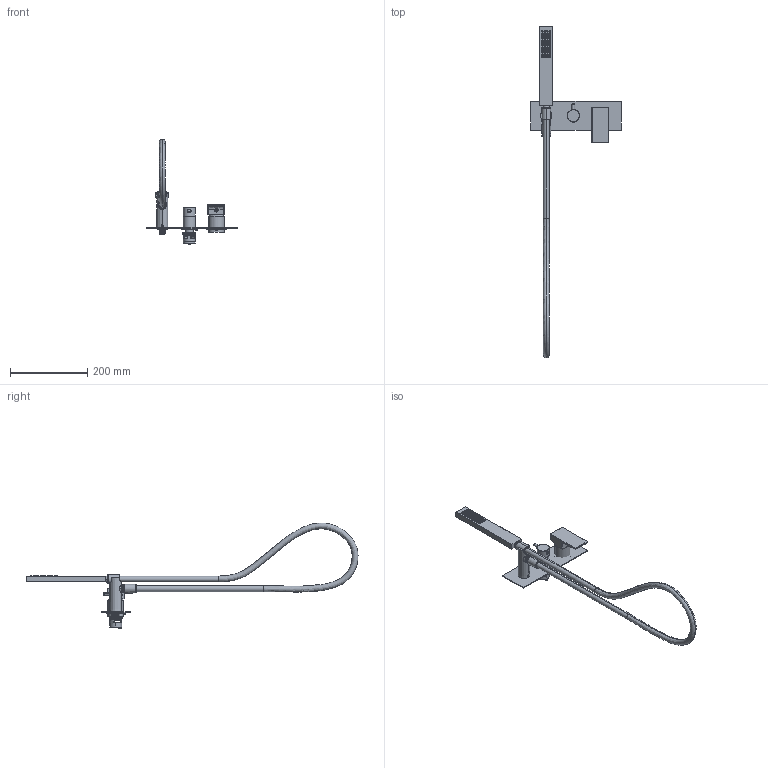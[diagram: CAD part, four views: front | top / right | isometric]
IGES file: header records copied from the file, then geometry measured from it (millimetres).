
Start section:  PTC IGES file: 35529v3_sw0001.igs
Global section: file name: 35529v3_sw0001.igs; native system: Creo Parametric by PTC Inc.; preprocessor: 2022014; author: volponeff; organization: Unknown; date: 20230601.110241; units: millimetre
Bounding box: 235 x 858.76 x 273.89 mm (x, y, z)
Surface area: 182755.2 mm2 (no closed solid volume)
Topology: 0 solids, 0 shells, 449 faces, 1945 edges, 1941 vertices
Faces by surface type: revolution 312, bspline 137
